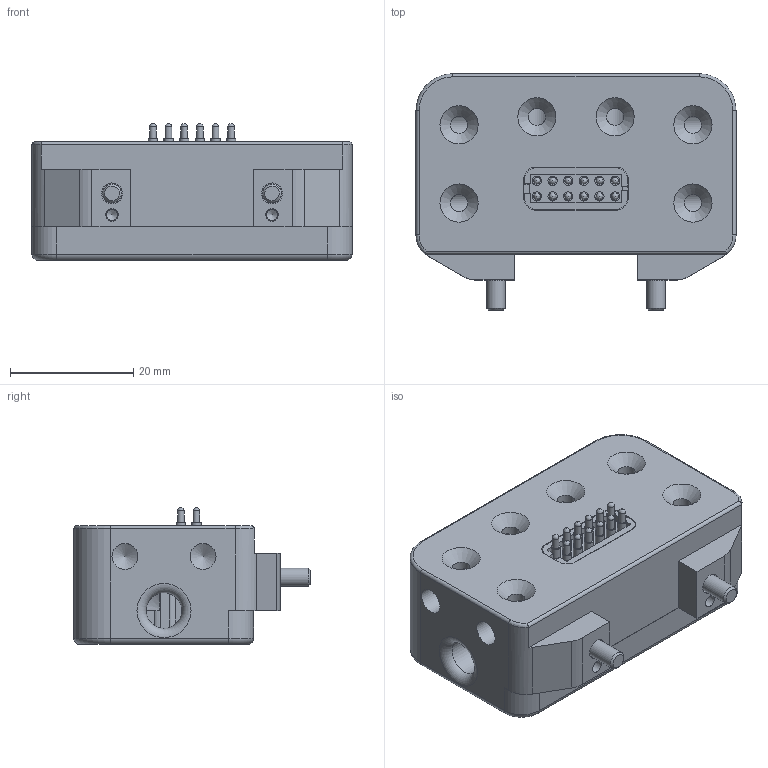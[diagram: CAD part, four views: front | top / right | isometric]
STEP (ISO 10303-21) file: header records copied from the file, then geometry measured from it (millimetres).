
FILE_DESCRIPTION(/* description */ (''),/* implementation_level */ '2;1');
FILE_NAME(/* name */ 'T:\CAD\Standard\SHW\SEK-P\SEK100\SEK100-6PM5-1FE12\G-SEK100-U-6PM5-1FE12.stp',/* time_stamp */ '2022-02-15T14:38:12+01:00',/* author */ ('vbednarz'),/* organization */ (''),/* preprocessor_version */ 'ST-DEVELOPER v17',/* originating_system */ 'Autodesk Inventor 2018',/* authorisation */ '');
FILE_SCHEMA (('AUTOMOTIVE_DESIGN { 1 0 10303 214 3 1 1 }'));
Length unit declared in the file: millimetre
Products named in the file (1): G-SEK100-U-6PM5-1FE12-40-M8.step
Bounding box: 52 x 38.4 x 22.24 mm (x, y, z)
Volume: 26188.7 mm3; surface area: 13178 mm2
Topology: 3 solids, 11 shells, 465 faces, 1162 edges, 788 vertices
Faces by surface type: plane 226, cylinder 168, cone 36, torus 21, bspline 14
Full cylindrical faces by diameter (mm): 0.97 x12, 1 x5, 1.07 x12, 1.5 x12, 1.65 x12, 1.8 x2, 1.98 x12, 2.02 x2, 2.05 x4, 2.5 x4, 2.8 x6, 2.9 x4, 3 x2, 3.4 x2, 4.2 x6, 4.5 x4, 5 x4, 5.5 x2, 5.8 x1, 6 x2
Entity records: 15748 total; most frequent: CARTESIAN_POINT 3686, DIRECTION 2487, ORIENTED_EDGE 2284, EDGE_CURVE 1142, AXIS2_PLACEMENT_3D 968, VERTEX_POINT 786, EDGE_LOOP 590, LINE 551
